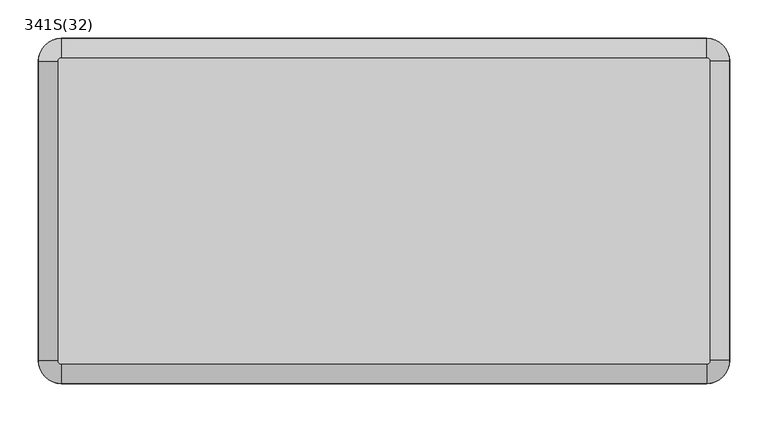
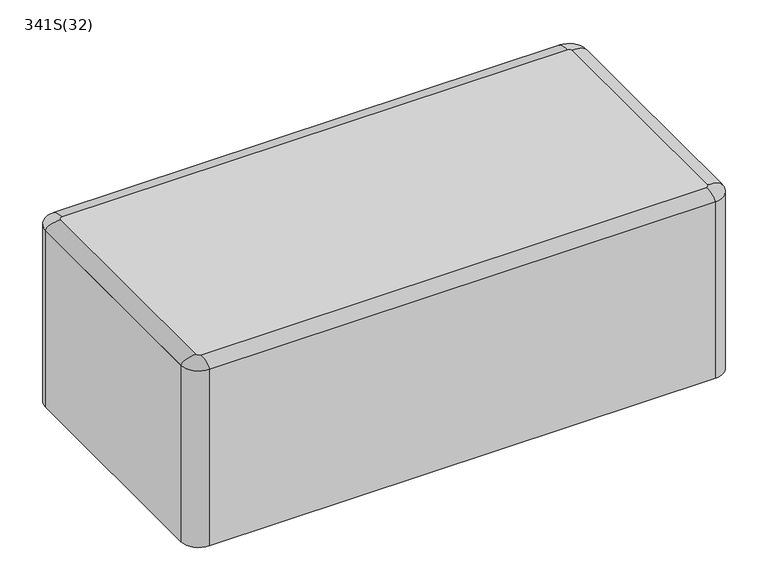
"""IFC4 building model written with IfcOpenShell, lengths in millimetres: furniture geometry, Bit Stick : 341S(32)."""

from ifc_helpers import new_model, si_unit, point, frame, frame_2d, origin, origin_with_axes, place, context, project, spatial, polyline, circle_curve, ellipse_curve, trimmed, segment, composite_curve, outline, extrude, source, transform, mapped, element, save
from ifc_brep_helpers import plane_surface, revolved_surface, extruded_surface, advanced_brep


def furniture_341s_32_03bf6e16(model_context):
    return source(origin(), model_context, "Body", "SolidModel", [
        advanced_brep(
        [(-420.0, 200.0, 320.0), (-420.0, 225.0, 310.0), (-450.0, 195.0, 310.0), (-425.0, 195.0, 320.0), (-450.0, -195.0, 310.0), (-425.0, -195.0, 320.0), (-420.0, -225.0, 310.0), (-420.0, -200.0, 320.0), (420.0, -225.0, 310.0), (420.0, -200.0, 320.0), (450.0, -195.0, 310.0), (425.0, -195.0, 320.0), (450.0, 195.0, 310.0), (425.0, 195.0, 320.0), (420.0, 225.0, 310.0), (420.0, 200.0, 320.0)],
        [
            (0, 1, ellipse_curve(frame((-420.0, 200.0, 310.0), z_axis=(-1.0, 0.0, 0.0), x_axis=(0.0, 1.0, 0.0)), 25.0, 10.0)),
            (1, 2, circle_curve(frame((-420.0, 195.0, 310.0), z_axis=(0.0, 0.0, 1.0), x_axis=(0.0, 1.0, 0.0)), 30.0)),
            (2, 3, ellipse_curve(frame((-425.0, 195.0, 310.0), z_axis=(0.0, 1.0, 0.0), x_axis=(-1.0, 0.0, 0.0)), 25.0, 10.0)),
            (3, 0, circle_curve(frame((-420.0, 195.0, 320.0), z_axis=(0.0, 0.0, -1.0), x_axis=(0.0, 1.0, 0.0)), 5.0)),
            (2, 4),
            (4, 5, ellipse_curve(frame((-425.0, -195.0, 310.0), z_axis=(0.0, 1.0, 0.0), x_axis=(-1.0, 0.0, 0.0)), 25.0, 10.0)),
            (5, 3),
            (4, 6, circle_curve(frame((-420.0, -195.0, 310.0), z_axis=(0.0, 0.0, 1.0), x_axis=(-1.0, 0.0, 0.0)), 30.0)),
            (6, 7, ellipse_curve(frame((-420.0, -200.0, 310.0), z_axis=(-1.0, 0.0, 0.0), x_axis=(0.0, -1.0, 0.0)), 25.0, 10.0)),
            (7, 5, circle_curve(frame((-420.0, -195.0, 320.0), z_axis=(0.0, 0.0, -1.0), x_axis=(-1.0, 0.0, 0.0)), 5.0)),
            (6, 8),
            (8, 9, ellipse_curve(frame((420.0, -200.0, 310.0), z_axis=(-1.0, 0.0, 0.0), x_axis=(0.0, -1.0, 0.0)), 25.0, 10.0)),
            (9, 7),
            (8, 10, circle_curve(frame((420.0, -195.0, 310.0), z_axis=(0.0, 0.0, 1.0), x_axis=(0.0, -1.0, 0.0)), 30.0)),
            (10, 11, ellipse_curve(frame((425.0, -195.0, 310.0), z_axis=(0.0, -1.0, 0.0), x_axis=(1.0, 0.0, 0.0)), 25.0, 10.0)),
            (11, 9, circle_curve(frame((420.0, -195.0, 320.0), z_axis=(0.0, 0.0, -1.0), x_axis=(0.0, -1.0, 0.0)), 5.0)),
            (10, 12),
            (12, 13, ellipse_curve(frame((425.0, 195.0, 310.0), z_axis=(0.0, -1.0, 0.0), x_axis=(1.0, 0.0, 0.0)), 25.0, 10.0)),
            (13, 11),
            (12, 14, circle_curve(frame((420.0, 195.0, 310.0), z_axis=(0.0, 0.0, 1.0), x_axis=(1.0, 0.0, 0.0)), 30.0)),
            (14, 15, ellipse_curve(frame((420.0, 200.0, 310.0), z_axis=(1.0, 0.0, 0.0), x_axis=(0.0, 1.0, 0.0)), 25.0, 10.0)),
            (15, 13, circle_curve(frame((420.0, 195.0, 320.0), z_axis=(0.0, 0.0, -1.0), x_axis=(1.0, 0.0, 0.0)), 5.0)),
            (1, 14),
            (0, 15),
        ],
        [
            revolved_surface(trimmed(ellipse_curve(frame((-420.0, 200.0, 310.0), z_axis=(1.0, 0.0, 0.0), x_axis=(0.0, 1.0, 0.0)), 25.0, 10.0), [point((-420.0, 225.0, 310.0))], [point((-420.0, 200.0, 320.0))], True, "CARTESIAN"), (-420.0, 195.0, 310.0), (0.0, 0.0, 1.0)),
            extruded_surface(trimmed(ellipse_curve(frame((-425.0, -195.0, 310.0), z_axis=(0.0, 1.0, 0.0), x_axis=(-1.0, 0.0, 0.0)), 25.0, 10.0), [point((-450.0, -195.0, 310.0))], [point((-425.0, -195.0, 320.0))], True, "CARTESIAN"), (0.0, 390.0, 0.0), 390.0),
            revolved_surface(trimmed(ellipse_curve(frame((-425.0, -195.0, 310.0), z_axis=(0.0, 1.0, 0.0), x_axis=(-1.0, 0.0, 0.0)), 25.0, 10.0), [point((-450.0, -195.0, 310.0))], [point((-425.0, -195.0, 320.0))], True, "CARTESIAN"), (-420.0, -195.0, 310.0), (0.0, 0.0, 1.0)),
            extruded_surface(trimmed(ellipse_curve(frame((420.0, -200.0, 310.0), z_axis=(-1.0, 0.0, 0.0), x_axis=(0.0, -1.0, 0.0)), 25.0, 10.0), [point((420.0, -225.0, 310.0))], [point((420.0, -200.0, 320.0))], True, "CARTESIAN"), (-840.0, 0.0, 0.0), 840.0),
            revolved_surface(trimmed(ellipse_curve(frame((420.0, -200.0, 310.0), z_axis=(-1.0, 0.0, 0.0), x_axis=(0.0, -1.0, 0.0)), 25.0, 10.0), [point((420.0, -225.0, 310.0))], [point((420.0, -200.0, 320.0))], True, "CARTESIAN"), (420.0, -195.0, 310.0), (0.0, 0.0, 1.0)),
            extruded_surface(trimmed(ellipse_curve(frame((425.0, 195.0, 310.0), z_axis=(0.0, -1.0, 0.0), x_axis=(1.0, 0.0, 0.0)), 25.0, 10.0), [point((450.0, 195.0, 310.0))], [point((425.0, 195.0, 320.0))], True, "CARTESIAN"), (0.0, -390.0, 0.0), 390.0),
            revolved_surface(trimmed(ellipse_curve(frame((425.0, 195.0, 310.0), z_axis=(0.0, -1.0, 0.0), x_axis=(1.0, 0.0, 0.0)), 25.0, 10.0), [point((450.0, 195.0, 310.0))], [point((425.0, 195.0, 320.0))], True, "CARTESIAN"), (420.0, 195.0, 310.0), (0.0, 0.0, 1.0)),
            plane_surface(frame((420.0, 200.0, 310.0), z_axis=(0.0, 0.0, -1.0), x_axis=(-1.0, 0.0, 0.0))),
            extruded_surface(trimmed(ellipse_curve(frame((-420.0, 200.0, 310.0), z_axis=(1.0, 0.0, 0.0), x_axis=(0.0, 1.0, 0.0)), 25.0, 10.0), [point((-420.0, 225.0, 310.0))], [point((-420.0, 200.0, 320.0))], True, "CARTESIAN"), (840.0, 0.0, 0.0), 840.0),
            plane_surface(frame((-420.0, 200.0, 320.0), z_axis=(0.0, 0.0, 1.0), x_axis=(-1.0, 0.0, 0.0))),
        ],
        [
            (0, [[1, 2, 3, 4]]),
            (1, [[-3, 5, 6, 7]]),
            (2, [[-6, 8, 9, 10]]),
            (3, [[-9, 11, 12, 13]]),
            (4, [[-12, 14, 15, 16]]),
            (5, [[-15, 17, 18, 19]]),
            (6, [[-18, 20, 21, 22]]),
            (7, [[-2, 23, -20, -17, -14, -11, -8, -5]]),
            (8, [[-1, 24, -21, -23]]),
            (9, [[-4, -7, -10, -13, -16, -19, -22, -24]]),
        ],
    ),
        extrude(outline(composite_curve([segment(trimmed(circle_curve(frame_2d((420.0, 195.0)), 30.0), [point((420.0, 225.0))], [point((450.0, 195.0))], False, "CARTESIAN"), True, "CONTINUOUS"), segment(polyline([(450.0, 195.0), (450.0, -195.0)]), True, "CONTINUOUS"), segment(trimmed(circle_curve(frame_2d((420.0, -195.0)), 30.0), [point((450.0, -195.0))], [point((420.0, -225.0))], False, "CARTESIAN"), True, "CONTINUOUS"), segment(polyline([(420.0, -225.0), (-420.0, -225.0)]), True, "CONTINUOUS"), segment(trimmed(circle_curve(frame_2d((-420.0, -195.0)), 30.0), [point((-420.0, -225.0))], [point((-450.0, -195.0))], False, "CARTESIAN"), True, "CONTINUOUS"), segment(polyline([(-450.0, -195.0), (-450.0, 195.0)]), True, "CONTINUOUS"), segment(trimmed(circle_curve(frame_2d((-420.0, 195.0)), 30.0), [point((-450.0, 195.0))], [point((-420.0, 225.0))], False, "CARTESIAN"), True, "CONTINUOUS"), segment(polyline([(-420.0, 225.0), (420.0, 225.0)]), True, "CONTINUOUS")], self_intersect=False)), origin_with_axes(), (0.0, 0.0, 1.0), 310.0),
    ])


if __name__ == "__main__":
    model = new_model("IFC4")
    model_context = context("Model", 3, world=origin())
    ifc_project = project(units=[si_unit("LENGTHUNIT", "METRE", prefix="MILLI")], contexts=[model_context])
    site = spatial("IfcSite", under=ifc_project)
    building = spatial("IfcBuilding", under=site)
    placement = place(None, origin())
    furniture_341s_32_shape = furniture_341s_32_03bf6e16(model_context)
    element("IfcFurniture", 1, ObjectType="Bit Stick : 341S(32)", at=placement, inside=building, context=model_context, shape_type="MappedRepresentation", body=[
        mapped(furniture_341s_32_shape, transform((0.0, 0.0, 0.0), x_axis=(1.0, 0.0, 0.0), y_axis=(0.0, 1.0, 0.0), z_axis=(0.0, 0.0, 1.0))),
    ])
    save(model, "model.ifc")
